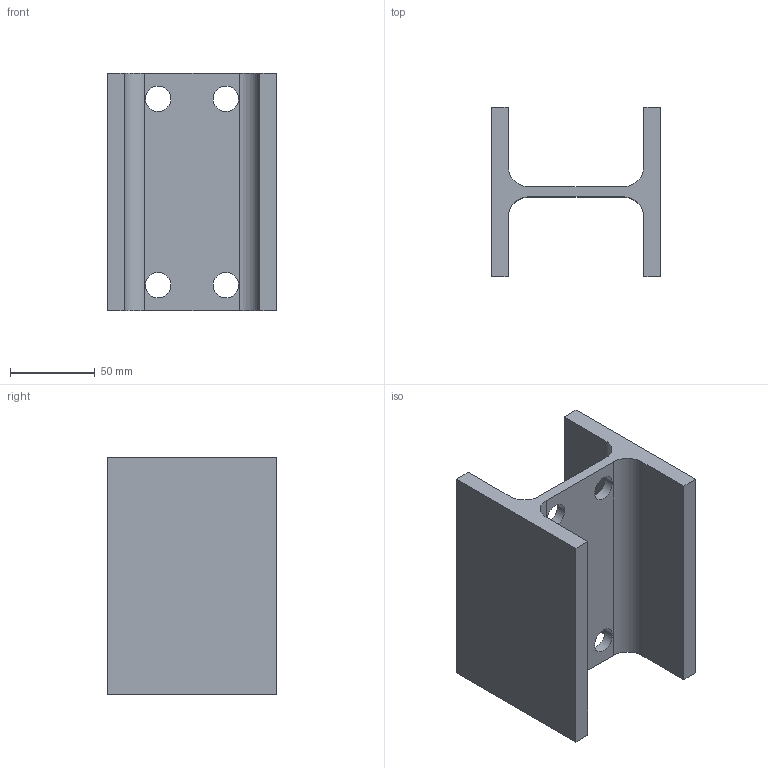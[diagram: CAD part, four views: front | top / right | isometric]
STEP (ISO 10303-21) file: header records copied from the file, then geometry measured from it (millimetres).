
FILE_DESCRIPTION (( 'STEP AP214' ), '1' );
FILE_NAME ('CCJ029-REP.002 - INTERFACE POTEAU PLATEFORME.STEP', '2025-02-13T07:45:15', ( '' ), ( '' ), 'SwSTEP 2.0', 'SolidWorks 2021', '' );
FILE_SCHEMA (( 'AUTOMOTIVE_DESIGN' ));
Length unit declared in the file: millimetre
Products named in the file (1): CCJ029-REP.002 - INTERFACE POTEAU PLATEFORME
Bounding box: 100 x 100 x 140 mm (x, y, z)
Volume: 360187 mm3; surface area: 84471.1 mm2
Topology: 1 solids, 1 shells, 61 faces, 162 edges, 108 vertices
Faces by surface type: plane 25, bspline 24, cylinder 12
Entity records: 3738 total; most frequent: CARTESIAN_POINT 2308, ORIENTED_EDGE 324, DIRECTION 214, EDGE_CURVE 162, VERTEX_POINT 108, LINE 90, VECTOR 90, EDGE_LOOP 74
